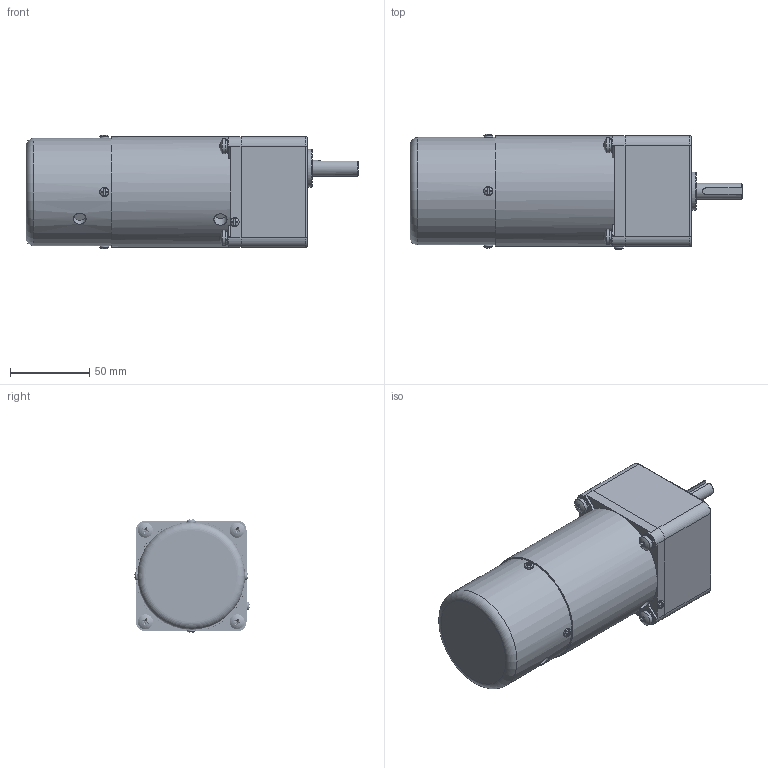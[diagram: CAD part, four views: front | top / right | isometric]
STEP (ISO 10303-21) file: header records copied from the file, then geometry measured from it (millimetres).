
FILE_DESCRIPTION(/* description */ (''),/* implementation_level */ '2;1');
FILE_NAME(/* name */ '70高箱L-25刹车.stp',/* time_stamp */ '2022-10-31T09:54:17+08:00',/* author */ (''),/* organization */ (''),/* preprocessor_version */ 'ST-DEVELOPER v16.7',/* originating_system */ 'SIEMENS PLM Software NX 1899',/* authorisation */ '');
FILE_SCHEMA (('AP203_CONFIGURATION_CONTROLLED_3D_DESIGN_OF_MECHANICAL_PARTS_AND_ASSEMBLIES_MIM_LF { 1 0 10303 403 2 1 2}'));
Products named in the file (1): yf186188FEB6lch2
Bounding box: 210 x 73.08 x 72.08 mm (x, y, z)
Volume: 726570.9 mm3; surface area: 70405 mm2
Topology: 14 solids, 15 shells, 355 faces, 911 edges, 607 vertices
Faces by surface type: plane 171, bspline 88, cylinder 69, torus 11, sphere 9, cone 7
Full cylindrical faces by diameter (mm): 2.7 x1, 4.826 x4, 5 x4, 5.3 x4, 5.6 x5, 6 x5, 8 x1, 8.3 x1, 9 x4, 9.5 x4, 10 x1, 24 x1, 63 x1, 66.6 x2, 68 x1, 70 x1
Entity records: 70895 total; most frequent: CARTESIAN_POINT 62890, ORIENTED_EDGE 1608, DIRECTION 1347, EDGE_CURVE 804, VERTEX_POINT 562, AXIS2_PLACEMENT_3D 536, EDGE_LOOP 461, ADVANCED_FACE 355
